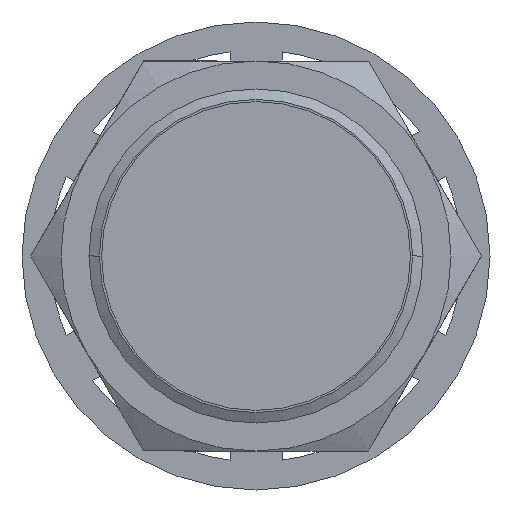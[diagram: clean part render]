
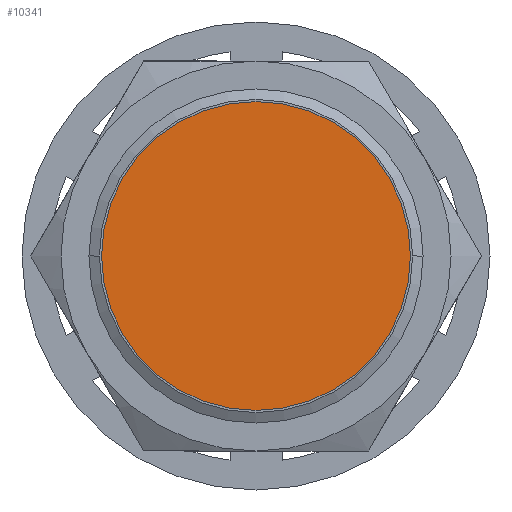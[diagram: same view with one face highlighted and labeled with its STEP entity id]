
A CAD part, left-side view. The second image highlights one B-rep face of the part: STEP entity #10341.
In plain terms, the highlighted planar face has unit normal (-1, 0, 0).
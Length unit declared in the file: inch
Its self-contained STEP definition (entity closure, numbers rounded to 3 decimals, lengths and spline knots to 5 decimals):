
#2241 = CARTESIAN_POINT ( 'NONE',  ( 0.84792, 4.51998, 0.59701 ) ) ;
#2373 = CARTESIAN_POINT ( 'NONE',  ( 0.84792, 4.51998, -0.49599 ) ) ;
#2639 = CIRCLE ( 'NONE', #2640, 0.5465 ) ;
#2640 = AXIS2_PLACEMENT_3D ( 'NONE', #2641, #2642, #2643 ) ;
#2641 = CARTESIAN_POINT ( 'NONE',  ( 0.84792, 4.51998, 0.05051 ) ) ;
#2642 = DIRECTION ( 'NONE',  ( 1., 0., 0. ) ) ;
#2643 = DIRECTION ( 'NONE',  ( 0., 0., -1. ) ) ;
#5307 = CIRCLE ( 'NONE', #5308, 0.5465 ) ;
#5308 = AXIS2_PLACEMENT_3D ( 'NONE', #5309, #5310, #5311 ) ;
#5309 = CARTESIAN_POINT ( 'NONE',  ( 0.84792, 4.51998, 0.05051 ) ) ;
#5310 = DIRECTION ( 'NONE',  ( 1., 0., 0. ) ) ;
#5311 = DIRECTION ( 'NONE',  ( 0., 0., -1. ) ) ;
#6179 = FACE_OUTER_BOUND ( 'NONE', #10420, .T. ) ;
#6180 = PLANE ( 'NONE',  #6181 ) ;
#6181 = AXIS2_PLACEMENT_3D ( 'NONE', #6182, #6183, #6184 ) ;
#6182 = CARTESIAN_POINT ( 'NONE',  ( 0.84792, 4.51998, 0.05051 ) ) ;
#6183 = DIRECTION ( 'NONE',  ( -1., 0., 0. ) ) ;
#6184 = DIRECTION ( 'NONE',  ( 0., 0., 1. ) ) ;
#10011 = EDGE_CURVE ( 'NONE', #11248, #11465, #5307, .T. ) ;
#10083 = ORIENTED_EDGE ( 'NONE', *, *, #10011, .F. ) ;
#10192 = ORIENTED_EDGE ( 'NONE', *, *, #11717, .F. ) ;
#10341 = ADVANCED_FACE ( 'NONE', ( #6179 ), #6180, .T. ) ;
#10420 = EDGE_LOOP ( 'NONE', ( #10192, #10083 ) ) ;
#11248 = VERTEX_POINT ( 'NONE', #2241 ) ;
#11465 = VERTEX_POINT ( 'NONE', #2373 ) ;
#11717 = EDGE_CURVE ( 'NONE', #11465, #11248, #2639, .T. ) ;
